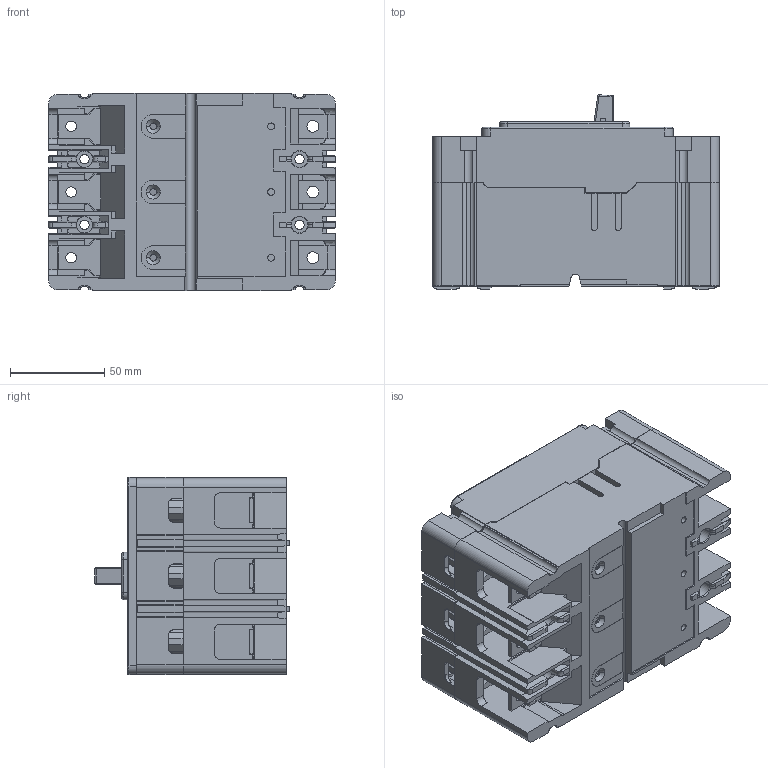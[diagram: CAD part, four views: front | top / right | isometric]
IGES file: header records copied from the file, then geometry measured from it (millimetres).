
Start section:  PTC IGES file: /data/CUSTOMERS/EATON/Eaton-Penn/translation-050503/iges /fd_3p_shrinkwrap.igs
Global section: file name: /data/CUSTOMERS/EATON/Eaton-Penn/translation-050503/iges/fd_3p_shrinkwrap.igs; native system: Pro/ENGINEER by Parametric Technology Corporation; preprocessor: 2001150; author: hopkin_m; organization: Unknown; date: 030507.100825; units: inch
Bounding box: 152.4 x 103.28 x 104.79 mm (x, y, z)
Surface area: 236155.3 mm2 (no closed solid volume)
Topology: 0 solids, 0 shells, 1386 faces, 7938 edges, 7935 vertices
Faces by surface type: bspline 924, revolution 462
